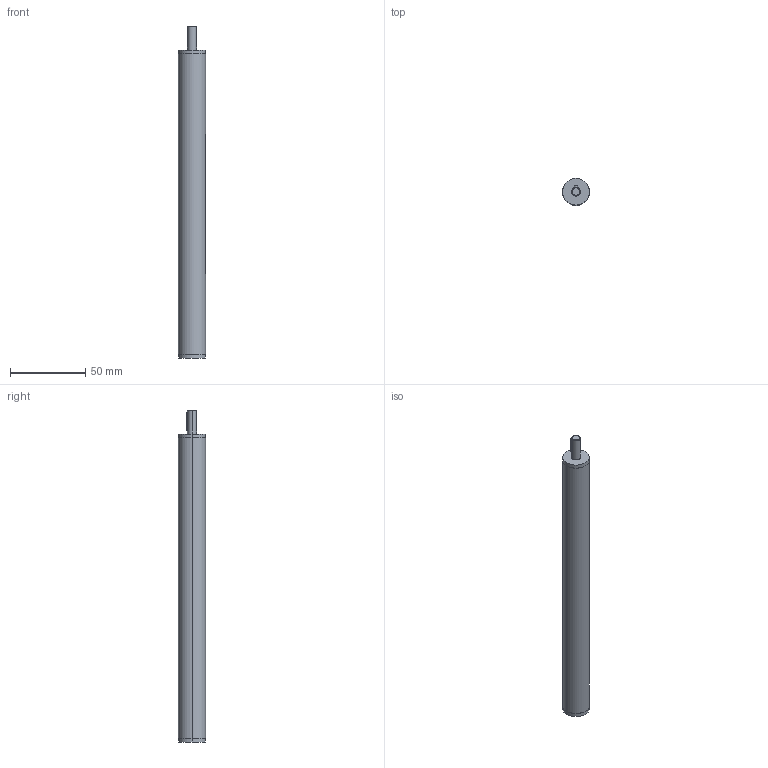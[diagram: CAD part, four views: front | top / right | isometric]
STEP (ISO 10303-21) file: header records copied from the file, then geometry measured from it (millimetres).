
FILE_DESCRIPTION (( 'STEP AP214' ), '1' );
FILE_NAME ('291-18-65-R1-SCR.step', '2023-08-30T05:19:50', ( '' ), ( '' ), 'SwSTEP 2.0', 'SolidWorks 2022', '' );
FILE_SCHEMA (( 'AUTOMOTIVE_DESIGN' ));
Length unit declared in the file: millimetre
Products named in the file (3): WB2910 mutter^WBVES_Tr10-M3; 291-18-65-R1-SCR; WB2910 Rund^WBVES_18-65-1
Assembly tree (2 placements, depth 2):
  291-18-65-R1-SCR
    WB2910 mutter^WBVES_Tr10-M3
    WB2910 Rund^WBVES_18-65-1
Bounding box: 18 x 18 x 221 mm (x, y, z)
Volume: 29682.8 mm3; surface area: 30565.3 mm2
Topology: 2 solids, 2 shells, 44 faces, 106 edges, 68 vertices
Faces by surface type: cylinder 25, plane 17, cone 2
Entity records: 1781 total; most frequent: CARTESIAN_POINT 458, DIRECTION 228, ORIENTED_EDGE 212, EDGE_CURVE 106, AXIS2_PLACEMENT_3D 88, VERTEX_POINT 68, EDGE_LOOP 54, LINE 52
